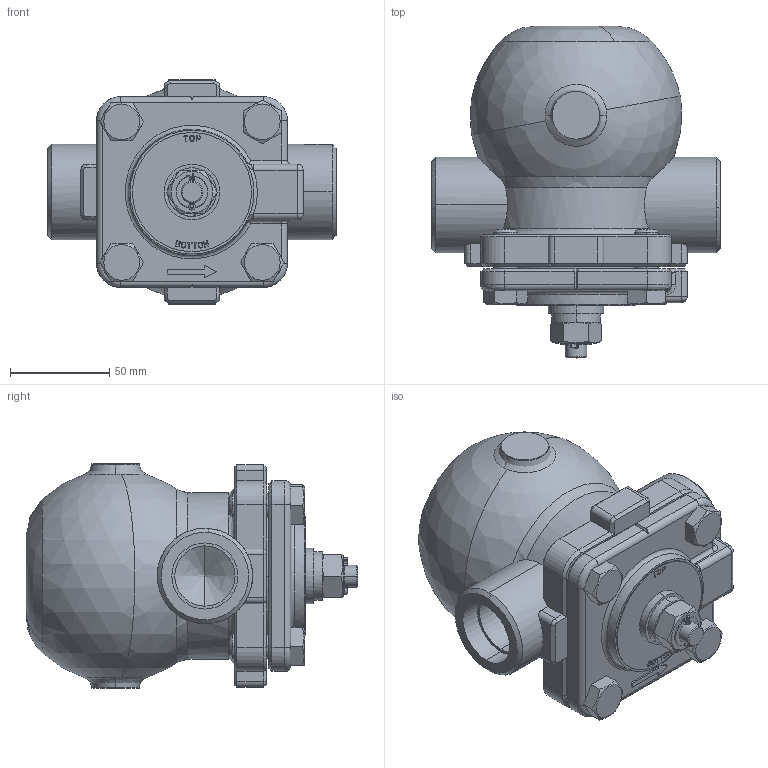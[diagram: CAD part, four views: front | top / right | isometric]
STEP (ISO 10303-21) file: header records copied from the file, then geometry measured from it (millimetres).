
FILE_DESCRIPTION( (''), '2;1');
FILE_NAME ('PC1276.1928.TSF-10 25A_20110.stp','2025-07-23T09:15:35',(''),(''),'spGate 20.6.3 (****-****-****-****)','','');
FILE_SCHEMA (('AUTOMOTIVE_DESIGN'));
Length unit declared in the file: millimetre
Products named in the file (3): Assembly; TSF-10　25A_M1; TSF-10　25A_M2
Assembly tree (2 placements, depth 2):
  Assembly
    TSF-10　25A_M1
    TSF-10　25A_M2
Bounding box: 145 x 167 x 113 mm (x, y, z)
Volume: 1088031.6 mm3; surface area: 91814.1 mm2
Topology: 2 solids, 2 shells, 486 faces, 1255 edges, 797 vertices
Faces by surface type: plane 241, bspline 128, cylinder 113, sphere 4
Entity records: 26794 total; most frequent: CARTESIAN_POINT 5885, ORIENTED_EDGE 2498, DIRECTION 2030, COLOUR_RGB 1737, PRESENTATION_STYLE_ASSIGNMENT 1737, STYLED_ITEM 1737, EDGE_CURVE 1249, DRAUGHTING_PRE_DEFINED_CURVE_FONT 1249
